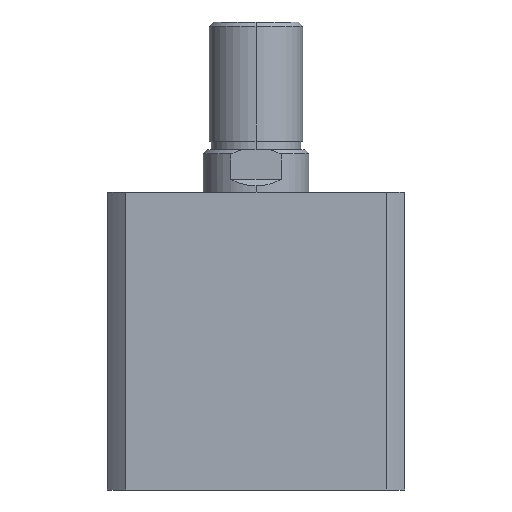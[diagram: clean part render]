
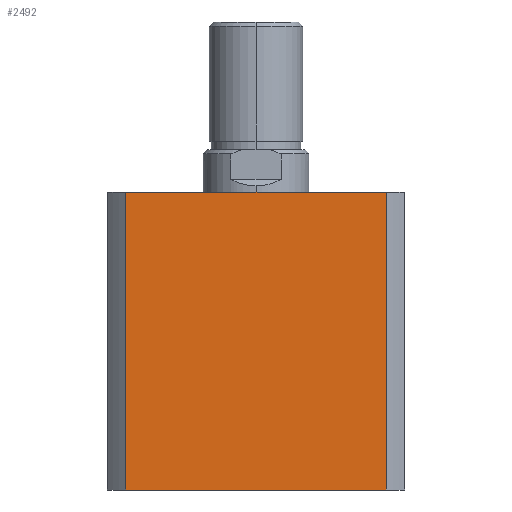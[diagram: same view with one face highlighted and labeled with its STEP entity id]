
A CAD part, left-side view. The second image highlights one B-rep face of the part: STEP entity #2492.
In plain terms, the highlighted planar face has unit normal (-1, 0, 0).
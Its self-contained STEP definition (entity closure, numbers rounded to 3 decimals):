
#566 = FACE_OUTER_BOUND ( 'NONE', #4265, .T. ) ;
#746 = LINE ( 'NONE', #4733, #758 ) ;
#750 = LINE ( 'NONE', #4731, #754 ) ;
#754 = VECTOR ( 'NONE', #4724, 1000. ) ;
#756 = LINE ( 'NONE', #4739, #762 ) ;
#758 = VECTOR ( 'NONE', #4738, 1000. ) ;
#762 = VECTOR ( 'NONE', #4741, 1000. ) ;
#830 = LINE ( 'NONE', #4565, #832 ) ;
#832 = VECTOR ( 'NONE', #4560, 1000. ) ;
#1529 = CARTESIAN_POINT ( 'NONE',  ( -35., 0., 70. ) ) ;
#1534 = PLANE ( 'NONE',  #2083 ) ;
#1537 = DIRECTION ( 'NONE',  ( 1., 0., 0. ) ) ;
#1538 = DIRECTION ( 'NONE',  ( 0., 1., 0. ) ) ;
#2083 = AXIS2_PLACEMENT_3D ( 'NONE', #1529, #1537, #1538 ) ;
#2329 = ORIENTED_EDGE ( 'NONE', *, *, #2656, .F. ) ;
#2492 = ADVANCED_FACE ( 'NONE', ( #566 ), #1534, .F. ) ;
#2656 = EDGE_CURVE ( 'NONE', #4996, #4995, #830, .T. ) ;
#2689 = EDGE_CURVE ( 'NONE', #4996, #4976, #750, .T. ) ;
#2690 = EDGE_CURVE ( 'NONE', #4976, #4975, #746, .T. ) ;
#2691 = EDGE_CURVE ( 'NONE', #4995, #4975, #756, .T. ) ;
#4048 = ORIENTED_EDGE ( 'NONE', *, *, #2689, .T. ) ;
#4075 = ORIENTED_EDGE ( 'NONE', *, *, #2691, .F. ) ;
#4265 = EDGE_LOOP ( 'NONE', ( #5176, #4075, #2329, #4048 ) ) ;
#4560 = DIRECTION ( 'NONE',  ( 0., -1., 0. ) ) ;
#4565 = CARTESIAN_POINT ( 'NONE',  ( -35., 0., 70. ) ) ;
#4724 = DIRECTION ( 'NONE',  ( 0., 0., -1. ) ) ;
#4731 = CARTESIAN_POINT ( 'NONE',  ( -35., 30.615, 70. ) ) ;
#4733 = CARTESIAN_POINT ( 'NONE',  ( -35., 0., 0. ) ) ;
#4738 = DIRECTION ( 'NONE',  ( 0., -1., 0. ) ) ;
#4739 = CARTESIAN_POINT ( 'NONE',  ( -35., -30.615, 70. ) ) ;
#4741 = DIRECTION ( 'NONE',  ( 0., 0., -1. ) ) ;
#4825 = CARTESIAN_POINT ( 'NONE',  ( -35., -30.615, 0. ) ) ;
#4832 = CARTESIAN_POINT ( 'NONE',  ( -35., 30.615, 0. ) ) ;
#4850 = CARTESIAN_POINT ( 'NONE',  ( -35., -30.615, 70. ) ) ;
#4851 = CARTESIAN_POINT ( 'NONE',  ( -35., 30.615, 70. ) ) ;
#4975 = VERTEX_POINT ( 'NONE', #4825 ) ;
#4976 = VERTEX_POINT ( 'NONE', #4832 ) ;
#4995 = VERTEX_POINT ( 'NONE', #4850 ) ;
#4996 = VERTEX_POINT ( 'NONE', #4851 ) ;
#5176 = ORIENTED_EDGE ( 'NONE', *, *, #2690, .T. ) ;
